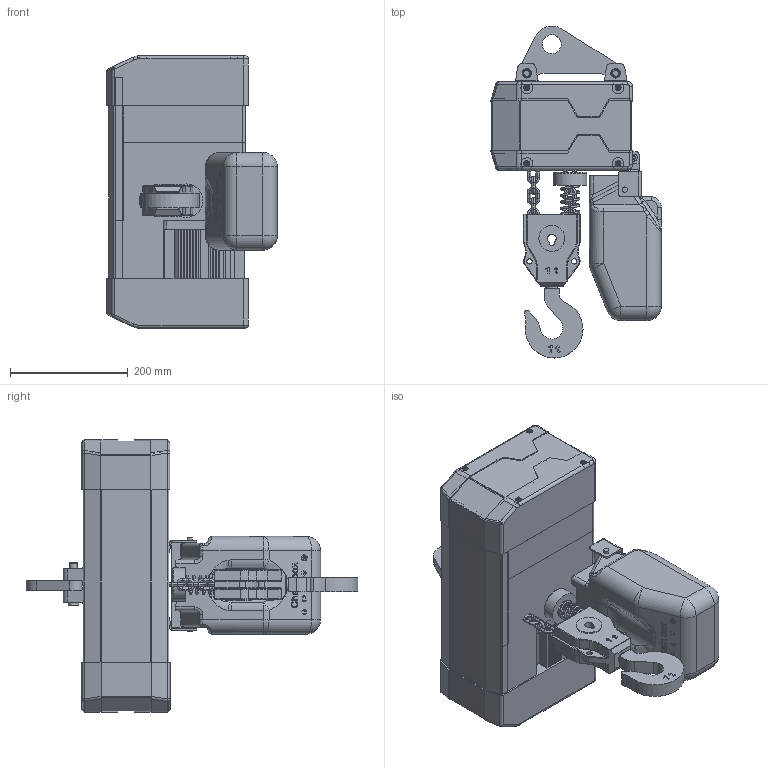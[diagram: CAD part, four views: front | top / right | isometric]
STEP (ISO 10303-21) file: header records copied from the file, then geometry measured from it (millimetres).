
FILE_DESCRIPTION(/* description */ ('CAx-IF Rec.Pracs.---Representation and Presentation of Product Manufacturing Information (PMI)---4.0---2014-10-13','CAx-IF Rec.Pracs.---3D Tessellated Geometry---0.4---2014-09-14','2;1'),/* implementation_level */ '2;1');
FILE_NAME(/* name */ 'YJ 01-02 固定式',/* time_stamp */ '2026-06-03T16:11:16+08:00',/* author */ (''),/* organization */ (''),/* preprocessor_version */ 'ST-DEVELOPER v16.7',/* originating_system */ $,/* authorisation */ $);
FILE_SCHEMA (('AP242_MANAGED_MODEL_BASED_3D_ENGINEERING_MIM_LF { 1 0 10303 442 20130219 1 4 }'));
Products named in the file (1): YJ 01-02 固定式
Bounding box: 289.59 x 564.05 x 462.2 mm (x, y, z)
Volume: 11658477.2 mm3; surface area: 1290132.9 mm2
Topology: 20 solids, 26 shells, 1956 faces, 4887 edges, 3013 vertices
Faces by surface type: plane 892, cylinder 567, bspline 205, torus 163, cone 71, sphere 58
Full cylindrical faces by diameter (mm): 2.14 x1, 4 x2, 4.2 x4, 4.826 x4, 5.795 x4, 6 x2, 6.2 x3, 6.6 x8, 6.8 x4, 7.46 x2, 8.5 x4, 9 x7, 10 x4, 10.2 x8, 12.8 x4, 14 x2, 15.037 x4, 16 x2, 18 x2, 19.7 x1, 32 x2, 44 x4, 57 x1, 72 x1
Entity records: 64948 total; most frequent: CARTESIAN_POINT 19769, ORIENTED_EDGE 9338, DIRECTION 9071, EDGE_CURVE 4669, AXIS2_PLACEMENT_3D 3230, VERTEX_POINT 2966, LINE 2627, VECTOR 2627
